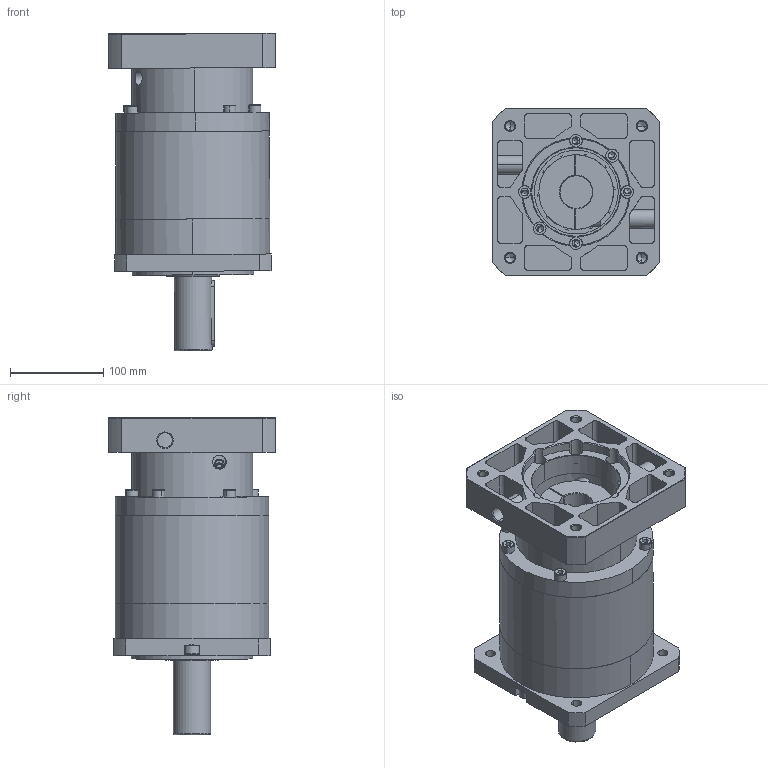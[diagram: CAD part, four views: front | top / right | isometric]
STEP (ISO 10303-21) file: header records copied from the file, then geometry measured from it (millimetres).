
FILE_DESCRIPTION(/* description */ (''),/* implementation_level */ '2;1');
FILE_NAME(/* name */ 'PF-160-L2(35-114.3-200-M12).stp',/* time_stamp */ '2023-08-09T15:33:55+08:00',/* author */ (''),/* organization */ (''),/* preprocessor_version */ 'ST-DEVELOPER v16',/* originating_system */ 'SIEMENS PLM Software NX 10.0',/* authorisation */ '');
FILE_SCHEMA (('AP203_CONFIGURATION_CONTROLLED_3D_DESIGN_OF_MECHANICAL_PARTS_AND_ASSEMBLIES_MIM_LF { 1 0 10303 403 2 1 2}'));
Length unit declared in the file: millimetre
Products named in the file (1): 049CC2FF1uzx
Bounding box: 180.19 x 180 x 341.06 mm (x, y, z)
Volume: 3297012 mm3; surface area: 699348.9 mm2
Topology: 25 solids, 25 shells, 1739 faces, 4864 edges, 3215 vertices
Faces by surface type: cylinder 553, extrusion 432, plane 348, sphere 160, torus 133, cone 111, bspline 2
Full cylindrical faces by diameter (mm): 6.8 x12, 8.5 x10, 11 x2, 14 x1, 15 x2, 16.5 x1, 32 x1, 35 x1, 40 x2, 50 x1, 55 x1, 57 x1, 59.5 x1, 60 x1, 65 x1, 70 x1, 80 x1, 98 x1, 118 x1, 121 x1, 140 x2, 165 x1
Entity records: 109537 total; most frequent: CARTESIAN_POINT 66285, ORIENTED_EDGE 9394, DIRECTION 8116, EDGE_CURVE 4697, VERTEX_POINT 3164, AXIS2_PLACEMENT_3D 3102, EDGE_LOOP 2035, VECTOR 1912
